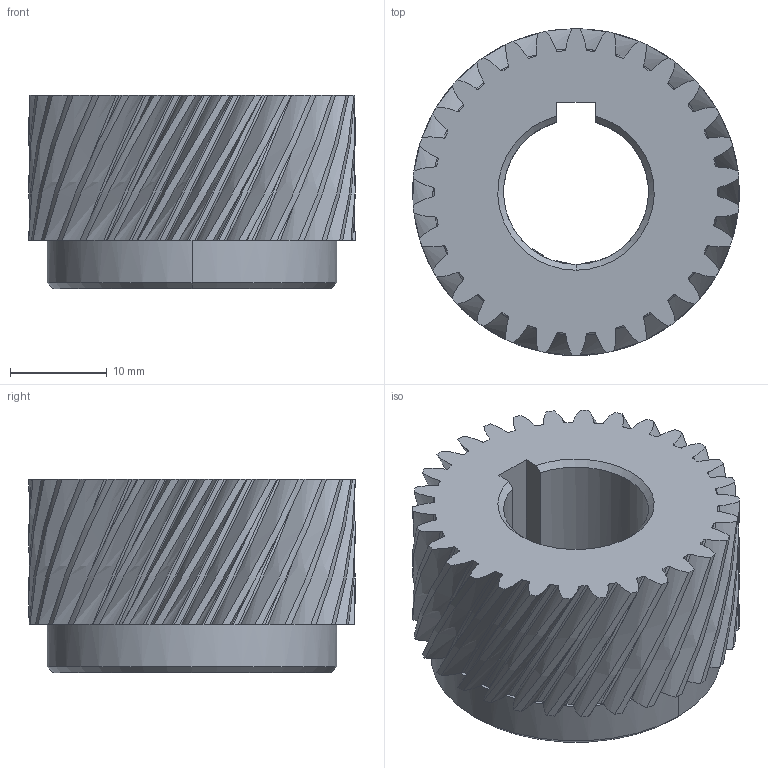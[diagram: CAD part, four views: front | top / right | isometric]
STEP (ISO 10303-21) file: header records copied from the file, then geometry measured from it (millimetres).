
FILE_DESCRIPTION (( 'STEP AP214' ), '1' );
FILE_NAME ('M1-30-15-R.step', '2022-02-13T05:03:59', ( 'IT Division' ), ( 'IT' ), 'SwSTEP 2.0', 'SolidWorks 2016', '' );
FILE_SCHEMA (( 'AUTOMOTIVE_DESIGN' ));
Length unit declared in the file: millimetre
Products named in the file (1): M1-30-15-R
Bounding box: 33.83 x 33.83 x 20 mm (x, y, z)
Volume: 11628.9 mm3; surface area: 5835.5 mm2
Topology: 1 solids, 1 shells, 1239 faces, 3400 edges, 2246 vertices
Faces by surface type: bspline 785, plane 330, cylinder 119, cone 5
Entity records: 114130 total; most frequent: CARTESIAN_POINT 90631, ORIENTED_EDGE 6800, EDGE_CURVE 3400, VERTEX_POINT 2246, B_SPLINE_CURVE_WITH_KNOTS 2096, DIRECTION 1970, EDGE_LOOP 1324, ADVANCED_FACE 1239
